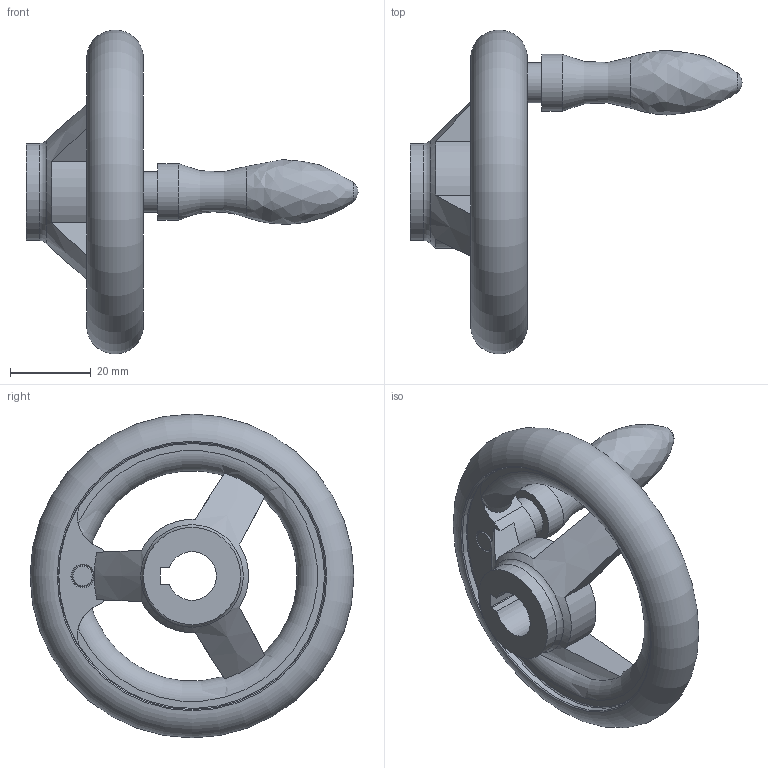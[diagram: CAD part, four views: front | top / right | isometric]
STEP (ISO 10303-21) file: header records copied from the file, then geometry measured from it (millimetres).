
FILE_DESCRIPTION( ( 'STEP AP203' ), '1' );
FILE_NAME( 'C:/Temp/Ganter_Step_05_03_2020/data/1_3/din_950/din_950_k/din_950_k_d/Handwheel DIN 950-GG-80-K12-D.stp', '2020-03-05T10:30:47', ( 'License CC BY-ND 4.0' ), ( 'CADENAS' ), ' ', 'PARTsolutions', ' ' );
FILE_SCHEMA( ( 'CONFIG_CONTROL_DESIGN' ) );
Length unit declared in the file: millimetre
Products named in the file (1): _Handwheel DIN 950-GG-80-K12-D
Bounding box: 82 x 79.97 x 79.97 mm (x, y, z)
Volume: 45966.6 mm3; surface area: 16002.8 mm2
Topology: 1 solids, 1 shells, 50 faces, 141 edges, 90 vertices
Faces by surface type: plane 18, cylinder 15, torus 11, cone 4, bspline 1, sphere 1
Full cylindrical faces by diameter (mm): 10 x1, 14 x1, 24 x2, 66 x2
Entity records: 1785 total; most frequent: CARTESIAN_POINT 570, DIRECTION 244, ORIENTED_EDGE 226, EDGE_CURVE 113, AXIS2_PLACEMENT_3D 110, VERTEX_POINT 84, EDGE_LOOP 75, FACE_OUTER_BOUND 65
